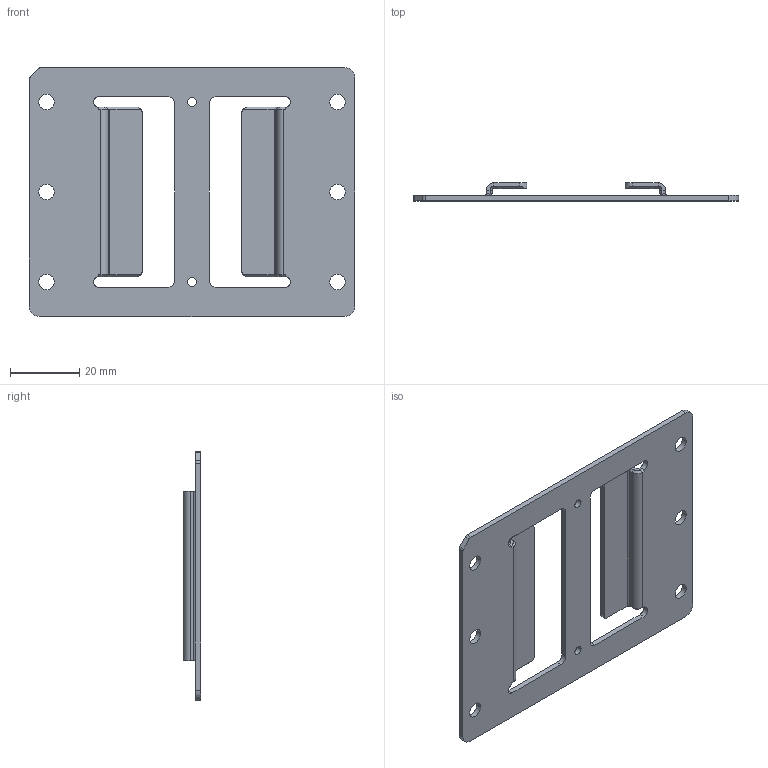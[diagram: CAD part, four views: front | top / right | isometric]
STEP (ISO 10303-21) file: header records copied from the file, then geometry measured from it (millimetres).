
FILE_DESCRIPTION((''),'2;1');
FILE_NAME('891_PLATE_89165','2025-01-23T16:35:59',('0092109'),(''),'CREO PARAMETRIC BY PTC INC, 2022281','CREO PARAMETRIC BY PTC INC, 2022281','');
FILE_SCHEMA(('AUTOMOTIVE_DESIGN { 1 0 10303 214 1 1 1 1 }'));
Length unit declared in the file: millimetre
Products named in the file (1): 891_PLATE_89165
Bounding box: 94 x 5.2 x 72 mm (x, y, z)
Volume: 9127.9 mm3; surface area: 12676.2 mm2
Topology: 1 solids, 1 shells, 108 faces, 266 edges, 160 vertices
Faces by surface type: plane 59, cylinder 41, cone 8
Entity records: 4177 total; most frequent: DIRECTION 568, CARTESIAN_POINT 558, ORIENTED_EDGE 532, PRESENTATION_STYLE_ASSIGNMENT 267, STYLED_ITEM 267, CURVE_STYLE 266, EDGE_CURVE 266, AXIS2_PLACEMENT_3D 198
